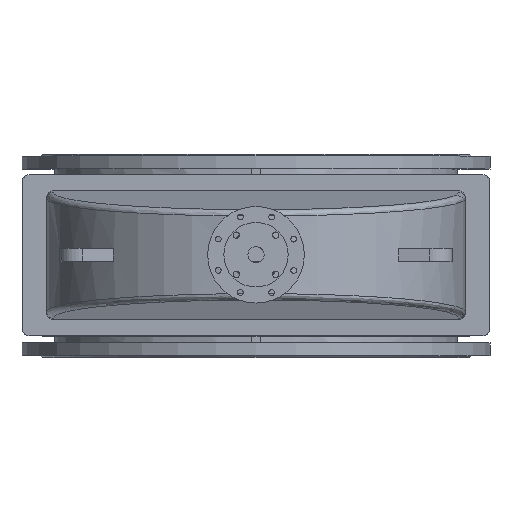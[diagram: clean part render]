
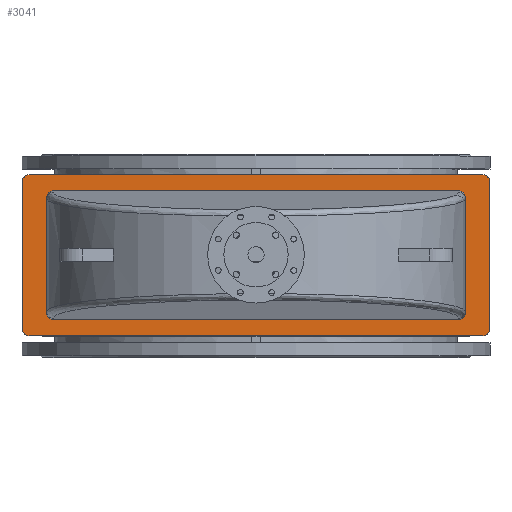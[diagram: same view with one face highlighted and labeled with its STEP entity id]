
A CAD part, top view. The second image highlights one B-rep face of the part: STEP entity #3041.
In plain terms, the highlighted planar face has unit normal (0, 0, 1).
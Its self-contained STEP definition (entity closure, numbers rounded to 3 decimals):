
#3041=ADVANCED_FACE('',(#9501,#9503),#9505,.T.);
#9501=FACE_BOUND('',#9502,.T.);
#9502=EDGE_LOOP('',(#12141,#12142,#12143,#12144,#12145,#12146,#12147,#12148));
#9503=FACE_BOUND('',#9504,.T.);
#9504=EDGE_LOOP('',(#12149,#12150,#12151,#12152,#12153,#12154,#12155,#12156));
#9505=PLANE('',#9506);
#9506=AXIS2_PLACEMENT_3D('',#9507,#9508,#9509);
#9507=CARTESIAN_POINT('',(0.,0.,1366.));
#9508=DIRECTION('',(0.,-0.,1.));
#9509=DIRECTION('',(0.,1.,0.));
#12141=ORIENTED_EDGE('',*,*,#13121,.F.);
#12142=ORIENTED_EDGE('',*,*,#13134,.T.);
#12143=ORIENTED_EDGE('',*,*,#13133,.F.);
#12144=ORIENTED_EDGE('',*,*,#13131,.T.);
#12145=ORIENTED_EDGE('',*,*,#13129,.F.);
#12146=ORIENTED_EDGE('',*,*,#13127,.T.);
#12147=ORIENTED_EDGE('',*,*,#13125,.F.);
#12148=ORIENTED_EDGE('',*,*,#13122,.T.);
#12149=ORIENTED_EDGE('',*,*,#13135,.F.);
#12150=ORIENTED_EDGE('',*,*,#13136,.F.);
#12151=ORIENTED_EDGE('',*,*,#13137,.F.);
#12152=ORIENTED_EDGE('',*,*,#13138,.F.);
#12153=ORIENTED_EDGE('',*,*,#13139,.F.);
#12154=ORIENTED_EDGE('',*,*,#13140,.F.);
#12155=ORIENTED_EDGE('',*,*,#13141,.F.);
#12156=ORIENTED_EDGE('',*,*,#13142,.F.);
#13121=EDGE_CURVE('',#14535,#14533,#14537,.F.);
#13122=EDGE_CURVE('',#14538,#14533,#14539,.T.);
#13125=EDGE_CURVE('',#14538,#14541,#14543,.F.);
#13127=EDGE_CURVE('',#14544,#14541,#14546,.T.);
#13129=EDGE_CURVE('',#14544,#14547,#14549,.F.);
#13131=EDGE_CURVE('',#14550,#14547,#14552,.T.);
#13133=EDGE_CURVE('',#14550,#14553,#14555,.F.);
#13134=EDGE_CURVE('',#14535,#14553,#14556,.T.);
#13135=EDGE_CURVE('',#14557,#14558,#14559,.F.);
#13136=EDGE_CURVE('',#14560,#14557,#14561,.T.);
#13137=EDGE_CURVE('',#14562,#14560,#14563,.T.);
#13138=EDGE_CURVE('',#14564,#14562,#14565,.T.);
#13139=EDGE_CURVE('',#14566,#14564,#14567,.F.);
#13140=EDGE_CURVE('',#14568,#14566,#14569,.T.);
#13141=EDGE_CURVE('',#14570,#14568,#14571,.T.);
#13142=EDGE_CURVE('',#14558,#14570,#14572,.T.);
#14533=VERTEX_POINT('',#19043);
#14535=VERTEX_POINT('',#19047);
#14537=CIRCLE('',#19051,20.);
#14538=VERTEX_POINT('',#19055);
#14539=LINE('',#19056,#19057);
#14541=VERTEX_POINT('',#19062);
#14543=CIRCLE('',#19066,20.);
#14544=VERTEX_POINT('',#19070);
#14546=LINE('',#19074,#19075);
#14547=VERTEX_POINT('',#19077);
#14549=CIRCLE('',#19081,20.);
#14550=VERTEX_POINT('',#19085);
#14552=LINE('',#19089,#19090);
#14553=VERTEX_POINT('',#19092);
#14555=CIRCLE('',#19096,20.);
#14556=LINE('',#19100,#19101);
#14557=VERTEX_POINT('',#19103);
#14558=VERTEX_POINT('',#19104);
#14559=(BOUNDED_CURVE()B_SPLINE_CURVE(3,
(#19105,#19106,#19107,#19108),
.UNSPECIFIED.,.F.,.F.)B_SPLINE_CURVE_WITH_KNOTS((4,4),
(0.,1.),
.UNSPECIFIED.)CURVE()GEOMETRIC_REPRESENTATION_ITEM()RATIONAL_B_SPLINE_CURVE((1.,
0.805,0.805,1.))REPRESENTATION_ITEM(''));
#14560=VERTEX_POINT('',#19109);
#14561=LINE('',#19110,#19111);
#14562=VERTEX_POINT('',#19113);
#14563=(BOUNDED_CURVE()B_SPLINE_CURVE(3,
(#19114,#19115,#19116,#19117),
.UNSPECIFIED.,.F.,.F.)B_SPLINE_CURVE_WITH_KNOTS((4,4),
(0.,1.),
.UNSPECIFIED.)CURVE()GEOMETRIC_REPRESENTATION_ITEM()RATIONAL_B_SPLINE_CURVE((1.,
0.805,0.805,1.))REPRESENTATION_ITEM(''));
#14564=VERTEX_POINT('',#19118);
#14565=LINE('',#19119,#19120);
#14566=VERTEX_POINT('',#19122);
#14567=(BOUNDED_CURVE()B_SPLINE_CURVE(3,
(#19123,#19124,#19125,#19126),
.UNSPECIFIED.,.F.,.F.)B_SPLINE_CURVE_WITH_KNOTS((4,4),
(0.,1.),
.UNSPECIFIED.)CURVE()GEOMETRIC_REPRESENTATION_ITEM()RATIONAL_B_SPLINE_CURVE((1.,
0.805,0.805,1.))REPRESENTATION_ITEM(''));
#14568=VERTEX_POINT('',#19127);
#14569=LINE('',#19128,#19129);
#14570=VERTEX_POINT('',#19131);
#14571=(BOUNDED_CURVE()B_SPLINE_CURVE(3,
(#19132,#19133,#19134,#19135),
.UNSPECIFIED.,.F.,.F.)B_SPLINE_CURVE_WITH_KNOTS((4,4),
(0.,1.),
.UNSPECIFIED.)CURVE()GEOMETRIC_REPRESENTATION_ITEM()RATIONAL_B_SPLINE_CURVE((1.,
0.805,0.805,1.))REPRESENTATION_ITEM(''));
#14572=LINE('',#19136,#19137);
#19043=CARTESIAN_POINT('',(-725.,-230.,1366.));
#19047=CARTESIAN_POINT('',(-705.,-250.,1366.));
#19051=AXIS2_PLACEMENT_3D('',#19052,#19053,#19054);
#19052=CARTESIAN_POINT('',(-705.,-230.,1366.));
#19053=DIRECTION('',(0.,-0.,1.));
#19054=DIRECTION('',(-1.,0.,0.));
#19055=CARTESIAN_POINT('',(-725.,230.,1366.));
#19056=CARTESIAN_POINT('',(-725.,230.,1366.));
#19057=VECTOR('',#19058,1.);
#19058=DIRECTION('',(0.,-1.,0.));
#19062=CARTESIAN_POINT('',(-705.,250.,1366.));
#19066=AXIS2_PLACEMENT_3D('',#19067,#19068,#19069);
#19067=CARTESIAN_POINT('',(-705.,230.,1366.));
#19068=DIRECTION('',(0.,-0.,1.));
#19069=DIRECTION('',(0.,1.,0.));
#19070=CARTESIAN_POINT('',(705.,250.,1366.));
#19074=CARTESIAN_POINT('',(705.,250.,1366.));
#19075=VECTOR('',#19076,1.);
#19076=DIRECTION('',(-1.,0.,0.));
#19077=CARTESIAN_POINT('',(725.,230.,1366.));
#19081=AXIS2_PLACEMENT_3D('',#19082,#19083,#19084);
#19082=CARTESIAN_POINT('',(705.,230.,1366.));
#19083=DIRECTION('',(0.,-0.,1.));
#19084=DIRECTION('',(1.,0.,0.));
#19085=CARTESIAN_POINT('',(725.,-230.,1366.));
#19089=CARTESIAN_POINT('',(725.,-230.,1366.));
#19090=VECTOR('',#19091,1.);
#19091=DIRECTION('',(0.,1.,0.));
#19092=CARTESIAN_POINT('',(705.,-250.,1366.));
#19096=AXIS2_PLACEMENT_3D('',#19097,#19098,#19099);
#19097=CARTESIAN_POINT('',(705.,-230.,1366.));
#19098=DIRECTION('',(0.,-0.,1.));
#19099=DIRECTION('',(0.,-1.,0.));
#19100=CARTESIAN_POINT('',(-705.,-250.,1366.));
#19101=VECTOR('',#19102,1.);
#19102=DIRECTION('',(1.,0.,0.));
#19103=CARTESIAN_POINT('',(630.,-200.,1366.));
#19104=CARTESIAN_POINT('',(650.,-179.924,1366.));
#19105=CARTESIAN_POINT('',(650.,-179.924,1366.));
#19106=CARTESIAN_POINT('',(650.,-191.684,1366.));
#19107=CARTESIAN_POINT('',(641.716,-200.,1366.));
#19108=CARTESIAN_POINT('',(630.,-200.,1366.));
#19109=CARTESIAN_POINT('',(-630.,-200.,1366.));
#19110=CARTESIAN_POINT('',(-630.,-200.,1366.));
#19111=VECTOR('',#19112,1.);
#19112=DIRECTION('',(1.,0.,0.));
#19113=CARTESIAN_POINT('',(-650.,-179.924,1366.));
#19114=CARTESIAN_POINT('',(-650.,-179.924,1366.));
#19115=CARTESIAN_POINT('',(-650.,-191.684,1366.));
#19116=CARTESIAN_POINT('',(-641.716,-200.,1366.));
#19117=CARTESIAN_POINT('',(-630.,-200.,1366.));
#19118=CARTESIAN_POINT('',(-650.,179.924,1366.));
#19119=CARTESIAN_POINT('',(-650.,179.924,1366.));
#19120=VECTOR('',#19121,1.);
#19121=DIRECTION('',(0.,-1.,0.));
#19122=CARTESIAN_POINT('',(-630.,200.,1366.));
#19123=CARTESIAN_POINT('',(-650.,179.924,1366.));
#19124=CARTESIAN_POINT('',(-650.,191.684,1366.));
#19125=CARTESIAN_POINT('',(-641.716,200.,1366.));
#19126=CARTESIAN_POINT('',(-630.,200.,1366.));
#19127=CARTESIAN_POINT('',(630.,200.,1366.));
#19128=CARTESIAN_POINT('',(630.,200.,1366.));
#19129=VECTOR('',#19130,1.);
#19130=DIRECTION('',(-1.,0.,0.));
#19131=CARTESIAN_POINT('',(650.,179.924,1366.));
#19132=CARTESIAN_POINT('',(650.,179.924,1366.));
#19133=CARTESIAN_POINT('',(650.,191.684,1366.));
#19134=CARTESIAN_POINT('',(641.716,200.,1366.));
#19135=CARTESIAN_POINT('',(630.,200.,1366.));
#19136=CARTESIAN_POINT('',(650.,-179.924,1366.));
#19137=VECTOR('',#19138,1.);
#19138=DIRECTION('',(0.,1.,0.));
